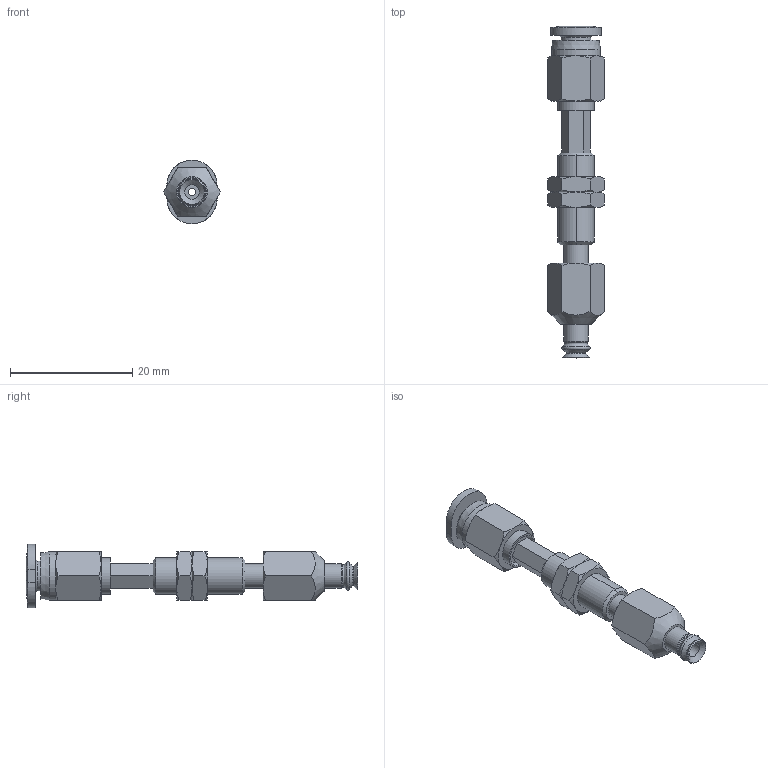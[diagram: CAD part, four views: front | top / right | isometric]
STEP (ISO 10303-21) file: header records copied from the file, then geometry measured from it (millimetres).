
FILE_DESCRIPTION(('STEP AP203'),'1');
FILE_NAME('-O.stp','2025-08-27T07:02:31',(' '),(' '),'Spatial InterOp 3D',' ',' ');
FILE_SCHEMA(('CONFIG_CONTROL_DESIGN'));
Length unit declared in the file: millimetre
Products named in the file (7): BNABPJTS-4-3-※-O; ADAPTER; NAPFTS-2A-3-MBODY; _Nut_1_5A_3_s; _NAPFTS_1_5A_3_FBODY; BPJG-4-※; PC-C_04-M3
Assembly tree (7 placements, depth 2):
  BNABPJTS-4-3-※-O
    ADAPTER
    NAPFTS-2A-3-MBODY
    _Nut_1_5A_3_s  x2
    _NAPFTS_1_5A_3_FBODY
    BPJG-4-※
    PC-C_04-M3
Bounding box: 9.24 x 54.27 x 10.4 mm (x, y, z)
Volume: 1236.5 mm3; surface area: 2593.3 mm2
Topology: 6 solids, 8 shells, 174 faces, 367 edges, 219 vertices
Faces by surface type: cone 67, plane 62, cylinder 27, torus 11, bspline 4, revolution 3
Full cylindrical faces by diameter (mm): 1.2 x2, 2 x2, 2.4 x1, 2.459 x1, 2.5 x2, 3 x3, 4 x2, 4.9 x1, 6 x1, 6.1 x1, 8 x1
Entity records: 4194 total; most frequent: CARTESIAN_POINT 1004, DIRECTION 605, ORIENTED_EDGE 510, AXIS2_PLACEMENT_3D 267, EDGE_CURVE 256, EDGE_LOOP 212, VERTEX_POINT 174, CIRCLE 119
